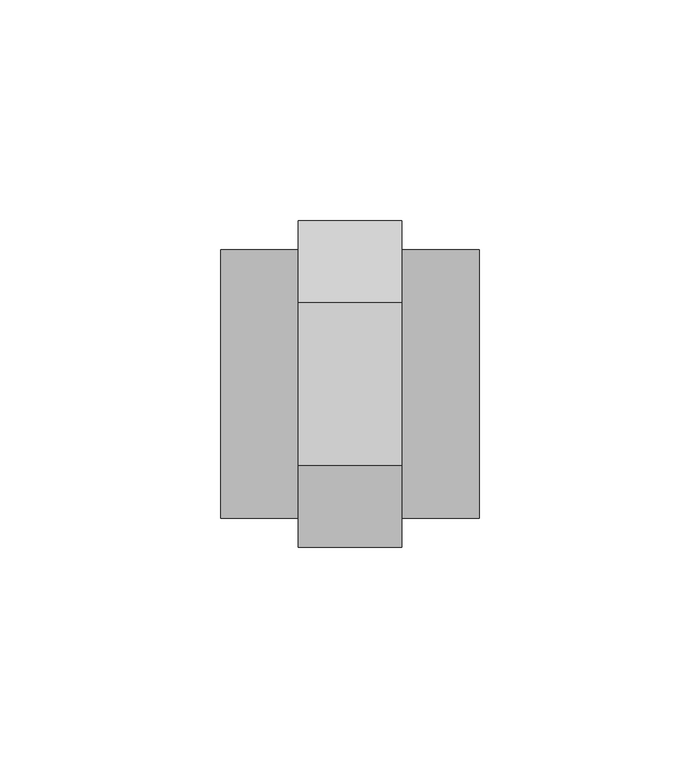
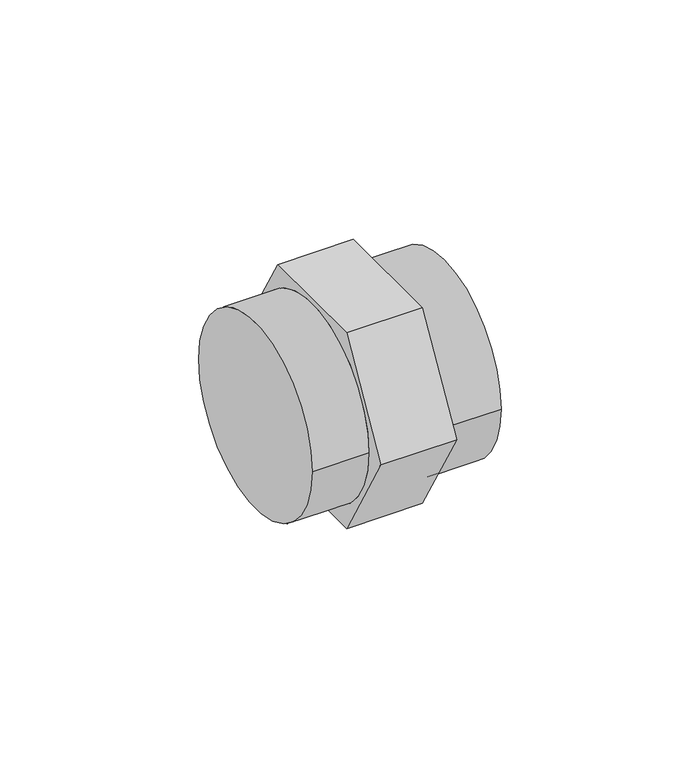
"""IFC4 building model written with IfcOpenShell, lengths in millimetres: pipe fitting geometry, 01101007 : Manguitos H/H."""

import ifcopenshell
import ifcopenshell.guid

model = None  # the IFC model being written
_history = None  # IfcOwnerHistory: only IFC2X3 demands one
_inside = {}  # id of a spatial element -> (the spatial element, [elements in it])
_under = {}  # id of a project, library or spatial element -> (it, [spatial elements below it])
_declared = {}  # id of a project -> (the project, [libraries it declares])
_typed = {}  # id of a type object -> (the type object, [elements of that type])
_made_of = {}  # id of a material, layer set ... -> (it, [elements and type objects made of it])


def new_model(schema):
    """Start an empty IFC model of exactly this schema.

    Asked for "IFC4X3", IfcOpenShell would pick the latest addendum, in which some entities
    have other attributes; the version numbers below select the first issue.
    IFC2X3 requires an IfcOwnerHistory on every rooted entity: one is made here for all.
    """
    global model, _history
    if schema == "IFC4X3":
        model = ifcopenshell.file(schema_version=(4, 3, 0, 0))
    else:
        model = ifcopenshell.file(schema=schema)
    _inside.clear()
    _under.clear()
    _declared.clear()
    _typed.clear()
    _made_of.clear()
    _history = None
    if model.schema == "IFC2X3":
        org = make("IfcOrganization", Name="unknown")
        user = make(
            "IfcPersonAndOrganization",
            ThePerson=make("IfcPerson", FamilyName="unknown"),
            TheOrganization=org,
        )
        app = make(
            "IfcApplication",
            ApplicationDeveloper=org,
            Version="unknown",
            ApplicationFullName="unknown",
            ApplicationIdentifier="unknown",
        )
        _history = make(
            "IfcOwnerHistory",
            OwningUser=user,
            OwningApplication=app,
            ChangeAction="ADDED",
            CreationDate=0,
        )
    return model


def make(cls, **values):
    """One entity of the class cls with the attributes given. An attribute that is None is left unset."""
    return model.create_entity(
        cls, **{name: value for name, value in values.items() if value is not None}
    )


def rooted(cls, **values):
    """An entity with a GlobalId (a new one), such as an element, a storey or a relation."""
    return make(cls, GlobalId=ifcopenshell.guid.new(), OwnerHistory=_history, **values)


def si_unit(unit_type, name, prefix=None):
    """IfcSIUnit, for example si_unit("LENGTHUNIT", "METRE", prefix="MILLI")."""
    return make("IfcSIUnit", UnitType=unit_type, Prefix=prefix, Name=name)


def assignment(units):
    """IfcUnitAssignment: the units of a project."""
    return None if units is None else make("IfcUnitAssignment", Units=units)


def point(xyz):
    """IfcCartesianPoint."""
    return None if xyz is None else make("IfcCartesianPoint", Coordinates=xyz)


def direction(xyz):
    """IfcDirection."""
    return None if xyz is None else make("IfcDirection", DirectionRatios=xyz)


def frame(location, z_axis=None, x_axis=None):
    """IfcAxis2Placement3D, a coordinate frame: its origin and axes. An axis left out is left unset."""
    return make(
        "IfcAxis2Placement3D",
        Location=point(location),
        Axis=direction(z_axis),
        RefDirection=direction(x_axis),
    )


def origin():
    """The frame at (0, 0, 0) with its axes left unset."""
    return frame((0.0, 0.0, 0.0))


def place(relative_to, where):
    """IfcLocalPlacement: puts the frame where relative to a parent placement (None: the world)."""
    return make(
        "IfcLocalPlacement", PlacementRelTo=relative_to, RelativePlacement=where
    )


def context(
    kind, dimensions, precision=None, world=None, true_north=None, identifier=None
):
    """IfcGeometricRepresentationContext, for example the 3D "Model" context."""
    return make(
        "IfcGeometricRepresentationContext",
        ContextIdentifier=identifier,
        ContextType=kind,
        CoordinateSpaceDimension=dimensions,
        Precision=precision,
        WorldCoordinateSystem=world,
        TrueNorth=true_north,
    )


def project(units=None, contexts=None):
    """IfcProject with its units and contexts."""
    return rooted(
        "IfcProject",
        Name="project",
        RepresentationContexts=contexts,
        UnitsInContext=assignment(units),
    )


def spatial(cls, under=None, at=None, **own):
    """A site, building, storey or space (cls), placed at a placement, below another one or the project."""
    s = rooted(cls, ObjectPlacement=at, **own)
    if under is not None:
        _under.setdefault(under.id(), (under, []))[1].append(s)
    return s


def circle_curve(where, radius):
    """IfcCircle in the frame where."""
    return make("IfcCircle", Position=where, Radius=radius)


def shape(context_of_items, identifier, shape_type, items):
    """IfcShapeRepresentation: the items that make up one representation, for example the "Body"."""
    return make(
        "IfcShapeRepresentation",
        ContextOfItems=context_of_items,
        RepresentationIdentifier=identifier,
        RepresentationType=shape_type,
        Items=items,
    )


def source(mapping_origin, context_of_items, identifier, shape_type, items):
    """IfcRepresentationMap: a shape defined once, which mapped items show again and again."""
    return make(
        "IfcRepresentationMap",
        MappingOrigin=mapping_origin,
        MappedRepresentation=shape(context_of_items, identifier, shape_type, items),
    )


def transform(
    local_origin,
    x_axis=None,
    y_axis=None,
    z_axis=None,
    scale=None,
    scale2=None,
    scale3=None,
    uniform=True,
):
    """IfcCartesianTransformationOperator3D, or its non-uniform kind. x_axis, y_axis, z_axis: its Axis1, 2, 3."""
    if uniform:
        return make(
            "IfcCartesianTransformationOperator3D",
            Axis1=direction(x_axis),
            Axis2=direction(y_axis),
            LocalOrigin=point(local_origin),
            Scale=scale,
            Axis3=direction(z_axis),
        )
    return make(
        "IfcCartesianTransformationOperator3DnonUniform",
        Axis1=direction(x_axis),
        Axis2=direction(y_axis),
        LocalOrigin=point(local_origin),
        Scale=scale,
        Axis3=direction(z_axis),
        Scale2=scale2,
        Scale3=scale3,
    )


def mapped(mapping_source, mapping_target):
    """IfcMappedItem: shows the shape of a source again, moved by a transform."""
    return make(
        "IfcMappedItem", MappingSource=mapping_source, MappingTarget=mapping_target
    )


def made_of(thing, what):
    """Note that an element or type object is made of a material, layer set ...; save() writes the relation."""
    if what is not None:
        _made_of.setdefault(what.id(), (what, []))[1].append(thing)
    return thing


def element(
    cls,
    number,
    at=None,
    inside=None,
    cuts=None,
    type_object=None,
    material=None,
    context=None,
    identifier="Body",
    shape_type=None,
    held_by="IfcProductDefinitionShape",
    body=None,
    shapes=None,
    **own,
):
    """One element of the class cls, such as IfcWall. Its Tag is "e" and its number.

    at: its placement. inside: the storey or other place that contains it. cuts: it is an
    opening in that element (IfcRelVoidsElement). A single representation is given by context,
    identifier, shape_type and body (its items); several are given by shapes. held_by: the class
    of the entity that holds the representations. save() writes the other relations.
    """
    e = rooted(cls, Tag="e%d" % number, ObjectPlacement=at, **own)
    if body is not None:
        shapes = [shape(context, identifier, shape_type, body)]
    if shapes is not None:
        e.Representation = make(held_by, Representations=shapes)
    if inside is not None:
        _inside.setdefault(inside.id(), (inside, []))[1].append(e)
    if cuts is not None:
        rooted(
            "IfcRelVoidsElement", RelatingBuildingElement=cuts, RelatedOpeningElement=e
        )
    if type_object is not None:
        _typed.setdefault(type_object.id(), (type_object, []))[1].append(e)
    return made_of(e, material)


def aggregate(whole, parts):
    """IfcRelAggregates: a whole, such as a stair, and the parts it consists of."""
    return rooted("IfcRelAggregates", RelatingObject=whole, RelatedObjects=parts)


def save(model, path):
    """Write the relations noted so far, then the file.

    IfcRelAggregates (storeys below a building ...), IfcRelContainedInSpatialStructure (elements
    in a storey), IfcRelDefinesByType, IfcRelAssociatesMaterial and IfcRelDeclares: one each for
    every whole, place, type object, material and project.
    """
    for whole, parts in _under.values():
        aggregate(whole, parts)
    for where, things in _inside.values():
        rooted(
            "IfcRelContainedInSpatialStructure",
            RelatedElements=things,
            RelatingStructure=where,
        )
    for kind, things in _typed.values():
        rooted("IfcRelDefinesByType", RelatedObjects=things, RelatingType=kind)
    for what, things in _made_of.values():
        rooted("IfcRelAssociatesMaterial", RelatedObjects=things, RelatingMaterial=what)
    for by, libraries in _declared.values():
        rooted("IfcRelDeclares", RelatingContext=by, RelatedDefinitions=libraries)
    model.write(path)


def plane_surface(at):
    """IfcPlane: the flat surface through the origin of the frame at, square to its z axis."""
    return make("IfcPlane", Position=at)


def cylinder_surface(at, radius):
    """IfcCylindricalSurface: all points at the distance radius from the z axis of the frame at."""
    return make("IfcCylindricalSurface", Position=at, Radius=radius)


def advanced_brep(points, edges, surfaces, faces):
    """IfcAdvancedBrep: a solid bounded by faces that lie on surfaces and meet in shared edges.

    An edge is (start, end): straight between two places in points (the first is 0);
    or (start, end, curve); or (start, end, curve, False) where it runs against its curve.
    A face is (place in surfaces, loops), or (place, loops, False) where it looks against
    its surface's normal. A loop lists edges by number (the first is 1), with a minus sign
    where the edge is run from its end to its start. The first loop is the outer one.
    """
    corners = [point(p) for p in points]
    vertices = [make("IfcVertexPoint", VertexGeometry=c) for c in corners]
    made = []
    for start, end, *more in edges:
        made.append(
            make(
                "IfcEdgeCurve",
                EdgeStart=vertices[start],
                EdgeEnd=vertices[end],
                EdgeGeometry=more[0] if more else make("IfcPolyline", Points=[corners[start], corners[end]]),
                SameSense=more[1] if len(more) > 1 else True,
            )
        )
    hull = []
    for where, loops, *sense in faces:
        bounds = []
        for j, loop in enumerate(loops):
            ring = [make("IfcOrientedEdge", EdgeElement=made[abs(k) - 1], Orientation=k > 0) for k in loop]
            bounds.append(
                make(
                    "IfcFaceOuterBound" if j == 0 else "IfcFaceBound",
                    Bound=make("IfcEdgeLoop", EdgeList=ring),
                    Orientation=True,
                )
            )
        hull.append(make("IfcAdvancedFace", Bounds=bounds, FaceSurface=surfaces[where], SameSense=sense[0] if sense else True))
    return make("IfcAdvancedBrep", Outer=make("IfcClosedShell", CfsFaces=hull))


def pipe_fitting_ed5a278a(model_context):
    return source(origin(), model_context, "Body", "AdvancedBrep", [
        advanced_brep(
        [(11.7, -18.4752086, 32.0), (11.7, -36.9504172, 0.0), (11.7, -18.4752086, -32.0), (11.7, 18.4752086, -32.0), (11.7, 36.9504172, 0.0), (11.7, 18.4752086, 32.0), (11.7, -30.4, 0.0), (11.7, 30.4, 0.0), (-11.7, -18.4752086, 32.0), (-11.7, 18.4752086, 32.0), (-11.7, 36.9504172, 0.0), (-11.7, 18.4752086, -32.0), (-11.7, -18.4752086, -32.0), (-11.7, -36.9504172, 0.0), (-11.7, 30.4, 0.0), (-11.7, -30.4, 0.0), (-29.25, -30.4, 0.0), (-29.25, 30.4, 0.0), (29.25, -30.4, 0.0), (29.25, 30.4, 0.0)],
        [
            (0, 1),
            (1, 2),
            (2, 3),
            (3, 4),
            (4, 5),
            (5, 0),
            (6, 7, circle_curve(frame((11.7, 0.0, 0.0), z_axis=(-1.0, 0.0, 0.0), x_axis=(0.0, 1.0, 0.0)), 30.4)),
            (7, 6, circle_curve(frame((11.7, 0.0, 0.0), z_axis=(-1.0, 0.0, 0.0), x_axis=(0.0, 1.0, 0.0)), 30.4)),
            (8, 9),
            (9, 10),
            (10, 11),
            (11, 12),
            (12, 13),
            (13, 8),
            (14, 15, circle_curve(frame((-11.7, 0.0, 0.0), z_axis=(1.0, 0.0, 0.0), x_axis=(0.0, 1.0, 0.0)), 30.4)),
            (15, 14, circle_curve(frame((-11.7, 0.0, 0.0), z_axis=(1.0, 0.0, 0.0), x_axis=(0.0, 1.0, 0.0)), 30.4)),
            (0, 8),
            (13, 1),
            (12, 2),
            (11, 3),
            (10, 4),
            (9, 5),
            (16, 17, circle_curve(frame((-29.25, 0.0, 0.0), z_axis=(-1.0, 0.0, 0.0), x_axis=(0.0, 1.0, 0.0)), 30.4)),
            (17, 16, circle_curve(frame((-29.25, 0.0, 0.0), z_axis=(-1.0, 0.0, 0.0), x_axis=(0.0, 1.0, 0.0)), 30.4)),
            (18, 19, circle_curve(frame((29.25, 0.0, 0.0), z_axis=(1.0, 0.0, 0.0), x_axis=(0.0, 1.0, 0.0)), 30.4)),
            (19, 18, circle_curve(frame((29.25, 0.0, 0.0), z_axis=(1.0, 0.0, 0.0), x_axis=(0.0, 1.0, 0.0)), 30.4)),
            (16, 15),
            (14, 17),
            (19, 7),
            (6, 18),
        ],
        [
            plane_surface(frame((11.7, -18.4752086, 32.0), z_axis=(1.0, 0.0, 0.0), x_axis=(0.0, -0.500000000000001, -0.866025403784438))),
            plane_surface(frame((-11.7, -18.4752086, 32.0), z_axis=(-1.0, 0.0, 0.0), x_axis=(0.0, 0.500000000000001, 0.866025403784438))),
            plane_surface(frame((11.7, -18.4752086, 32.0), z_axis=(0.0, -0.866025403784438, 0.500000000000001), x_axis=(-1.0, 0.0, 0.0))),
            plane_surface(frame((11.7, -36.9504172, 0.0), z_axis=(0.0, -0.866025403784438, -0.5000000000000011), x_axis=(-1.0, 0.0, 0.0))),
            plane_surface(frame((11.7, -18.4752086, -32.0), z_axis=(0.0, 0.0, -1.0), x_axis=(-1.0, 0.0, 0.0))),
            plane_surface(frame((11.7, 18.4752086, -32.0), z_axis=(0.0, 0.8660254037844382, -0.5000000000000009), x_axis=(-1.0, 0.0, 0.0))),
            plane_surface(frame((11.7, 36.9504172, 0.0), z_axis=(0.0, 0.866025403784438, 0.5000000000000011), x_axis=(-1.0, 0.0, 0.0))),
            plane_surface(frame((11.7, 18.4752086, 32.0), z_axis=(0.0, 0.0, 1.0), x_axis=(-1.0, 0.0, 0.0))),
            plane_surface(frame((-29.25, 0.0, 0.0), z_axis=(-1.0, 0.0, 0.0), x_axis=(0.0, 0.0, 1.0))),
            plane_surface(frame((29.25, 0.0, 0.0), z_axis=(1.0, 0.0, 0.0), x_axis=(0.0, 0.0, 1.0))),
            cylinder_surface(frame((-29.25, 0.0, 0.0), z_axis=(-1.0, 0.0, 0.0), x_axis=(0.0, 1.0, 0.0)), 30.4),
        ],
        [
            (0, [[1, 2, 3, 4, 5, 6], [7, 8]]),
            (1, [[9, 10, 11, 12, 13, 14], [15, 16]]),
            (2, [[-1, 17, -14, 18]]),
            (3, [[-2, -18, -13, 19]]),
            (4, [[-3, -19, -12, 20]]),
            (5, [[-4, -20, -11, 21]]),
            (6, [[-5, -21, -10, 22]]),
            (7, [[-6, -22, -9, -17]]),
            (8, [[23, 24]]),
            (9, [[25, 26]]),
            (10, [[-23, 27, -15, 28]]),
            (10, [[-26, 29, -7, 30]]),
            (10, [[-24, -28, -16, -27]]),
            (10, [[-25, -30, -8, -29]]),
        ],
    ),
    ])


if __name__ == "__main__":
    model = new_model("IFC4")
    model_context = context("Model", 3, world=origin())
    ifc_project = project(units=[si_unit("LENGTHUNIT", "METRE", prefix="MILLI")], contexts=[model_context])
    site = spatial("IfcSite", under=ifc_project)
    building = spatial("IfcBuilding", under=site)
    placement = place(None, origin())
    pipe_fitting_shape = pipe_fitting_ed5a278a(model_context)
    element("IfcPipeFitting", 1, ObjectType="01101007 : Manguitos H/H", at=placement, inside=building, context=model_context, shape_type="MappedRepresentation", body=[
        mapped(pipe_fitting_shape, transform((0.0, 0.0, 0.0), x_axis=(1.0, 0.0, 0.0), y_axis=(0.0, 1.0, 0.0), z_axis=(0.0, 0.0, 1.0))),
    ])
    save(model, "model.ifc")
